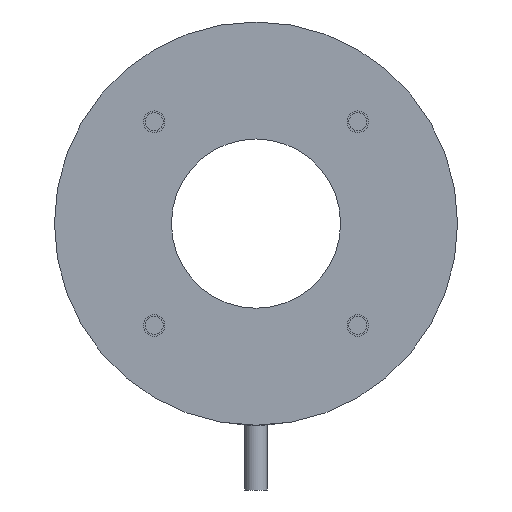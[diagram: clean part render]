
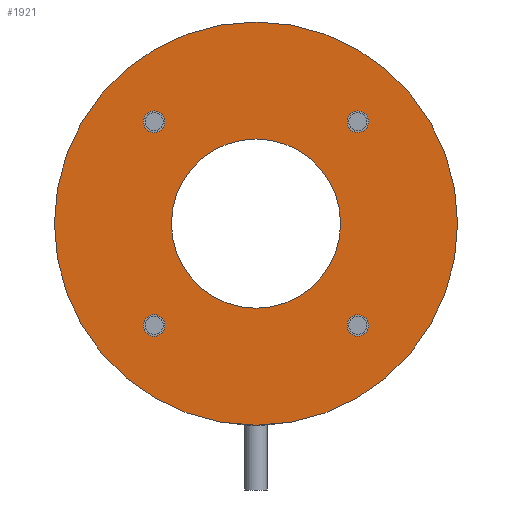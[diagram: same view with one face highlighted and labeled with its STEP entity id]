
A CAD part, front view. The second image highlights one B-rep face of the part: STEP entity #1921.
In plain terms, the highlighted planar face has unit normal (0, -1, 0).
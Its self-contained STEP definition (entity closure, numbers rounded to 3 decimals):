
#46=PLANE('',#2110);
#83=FACE_BOUND('',#265,.T.);
#84=FACE_BOUND('',#266,.T.);
#85=FACE_BOUND('',#267,.T.);
#86=FACE_BOUND('',#268,.T.);
#87=FACE_BOUND('',#269,.T.);
#150=FACE_OUTER_BOUND('',#264,.T.);
#264=EDGE_LOOP('',(#1261));
#265=EDGE_LOOP('',(#1262,#1263));
#266=EDGE_LOOP('',(#1264,#1265));
#267=EDGE_LOOP('',(#1266,#1267));
#268=EDGE_LOOP('',(#1268,#1269));
#269=EDGE_LOOP('',(#1270));
#508=CIRCLE('',#2040,28.);
#557=CIRCLE('',#2111,1.5);
#558=CIRCLE('',#2112,1.5);
#559=CIRCLE('',#2113,1.5);
#560=CIRCLE('',#2114,1.5);
#561=CIRCLE('',#2115,1.5);
#562=CIRCLE('',#2116,1.5);
#563=CIRCLE('',#2117,1.5);
#564=CIRCLE('',#2118,1.5);
#565=CIRCLE('',#2119,11.75);
#718=VERTEX_POINT('',#3067);
#770=VERTEX_POINT('',#3232);
#771=VERTEX_POINT('',#3233);
#772=VERTEX_POINT('',#3236);
#773=VERTEX_POINT('',#3237);
#774=VERTEX_POINT('',#3240);
#775=VERTEX_POINT('',#3241);
#776=VERTEX_POINT('',#3244);
#777=VERTEX_POINT('',#3245);
#778=VERTEX_POINT('',#3248);
#930=EDGE_CURVE('',#718,#718,#508,.T.);
#987=EDGE_CURVE('',#770,#771,#557,.T.);
#988=EDGE_CURVE('',#771,#770,#558,.T.);
#989=EDGE_CURVE('',#772,#773,#559,.T.);
#990=EDGE_CURVE('',#773,#772,#560,.T.);
#991=EDGE_CURVE('',#774,#775,#561,.T.);
#992=EDGE_CURVE('',#775,#774,#562,.T.);
#993=EDGE_CURVE('',#776,#777,#563,.T.);
#994=EDGE_CURVE('',#777,#776,#564,.T.);
#995=EDGE_CURVE('',#778,#778,#565,.T.);
#1261=ORIENTED_EDGE('',*,*,#930,.T.);
#1262=ORIENTED_EDGE('',*,*,#987,.F.);
#1263=ORIENTED_EDGE('',*,*,#988,.F.);
#1264=ORIENTED_EDGE('',*,*,#989,.F.);
#1265=ORIENTED_EDGE('',*,*,#990,.F.);
#1266=ORIENTED_EDGE('',*,*,#991,.F.);
#1267=ORIENTED_EDGE('',*,*,#992,.F.);
#1268=ORIENTED_EDGE('',*,*,#993,.F.);
#1269=ORIENTED_EDGE('',*,*,#994,.F.);
#1270=ORIENTED_EDGE('',*,*,#995,.F.);
#1921=ADVANCED_FACE('',(#150,#83,#84,#85,#86,#87),#46,.F.);
#2040=AXIS2_PLACEMENT_3D('',#3068,#2366,#2367);
#2110=AXIS2_PLACEMENT_3D('',#3231,#2512,#2513);
#2111=AXIS2_PLACEMENT_3D('',#3234,#2514,#2515);
#2112=AXIS2_PLACEMENT_3D('',#3235,#2516,#2517);
#2113=AXIS2_PLACEMENT_3D('',#3238,#2518,#2519);
#2114=AXIS2_PLACEMENT_3D('',#3239,#2520,#2521);
#2115=AXIS2_PLACEMENT_3D('',#3242,#2522,#2523);
#2116=AXIS2_PLACEMENT_3D('',#3243,#2524,#2525);
#2117=AXIS2_PLACEMENT_3D('',#3246,#2526,#2527);
#2118=AXIS2_PLACEMENT_3D('',#3247,#2528,#2529);
#2119=AXIS2_PLACEMENT_3D('',#3249,#2530,#2531);
#2366=DIRECTION('center_axis',(0.,-1.,0.));
#2367=DIRECTION('ref_axis',(0.,0.,-1.));
#2512=DIRECTION('center_axis',(0.,1.,0.));
#2513=DIRECTION('ref_axis',(0.,0.,1.));
#2514=DIRECTION('center_axis',(0.,-1.,0.));
#2515=DIRECTION('ref_axis',(0.,0.,-1.));
#2516=DIRECTION('center_axis',(0.,-1.,0.));
#2517=DIRECTION('ref_axis',(0.,0.,-1.));
#2518=DIRECTION('center_axis',(0.,-1.,0.));
#2519=DIRECTION('ref_axis',(0.,0.,-1.));
#2520=DIRECTION('center_axis',(0.,-1.,0.));
#2521=DIRECTION('ref_axis',(0.,0.,-1.));
#2522=DIRECTION('center_axis',(0.,-1.,0.));
#2523=DIRECTION('ref_axis',(0.,0.,-1.));
#2524=DIRECTION('center_axis',(0.,-1.,0.));
#2525=DIRECTION('ref_axis',(0.,0.,-1.));
#2526=DIRECTION('center_axis',(0.,-1.,0.));
#2527=DIRECTION('ref_axis',(0.,0.,-1.));
#2528=DIRECTION('center_axis',(0.,-1.,0.));
#2529=DIRECTION('ref_axis',(0.,0.,-1.));
#2530=DIRECTION('center_axis',(0.,-1.,0.));
#2531=DIRECTION('ref_axis',(0.,0.,-1.));
#3067=CARTESIAN_POINT('',(0.,0.,28.));
#3068=CARTESIAN_POINT('Origin',(0.,0.,0.));
#3231=CARTESIAN_POINT('Origin',(0.,0.,0.));
#3232=CARTESIAN_POINT('',(-14.142,0.,12.642));
#3233=CARTESIAN_POINT('',(-14.142,0.,15.642));
#3234=CARTESIAN_POINT('Origin',(-14.142,0.,14.142));
#3235=CARTESIAN_POINT('Origin',(-14.142,0.,14.142));
#3236=CARTESIAN_POINT('',(14.142,0.,12.642));
#3237=CARTESIAN_POINT('',(14.142,0.,15.642));
#3238=CARTESIAN_POINT('Origin',(14.142,0.,14.142));
#3239=CARTESIAN_POINT('Origin',(14.142,0.,14.142));
#3240=CARTESIAN_POINT('',(14.142,0.,-15.642));
#3241=CARTESIAN_POINT('',(14.142,0.,-12.642));
#3242=CARTESIAN_POINT('Origin',(14.142,0.,-14.142));
#3243=CARTESIAN_POINT('Origin',(14.142,0.,-14.142));
#3244=CARTESIAN_POINT('',(-14.142,0.,-15.642));
#3245=CARTESIAN_POINT('',(-14.142,0.,-12.642));
#3246=CARTESIAN_POINT('Origin',(-14.142,0.,-14.142));
#3247=CARTESIAN_POINT('Origin',(-14.142,0.,-14.142));
#3248=CARTESIAN_POINT('',(0.,0.,11.75));
#3249=CARTESIAN_POINT('Origin',(0.,0.,0.));
